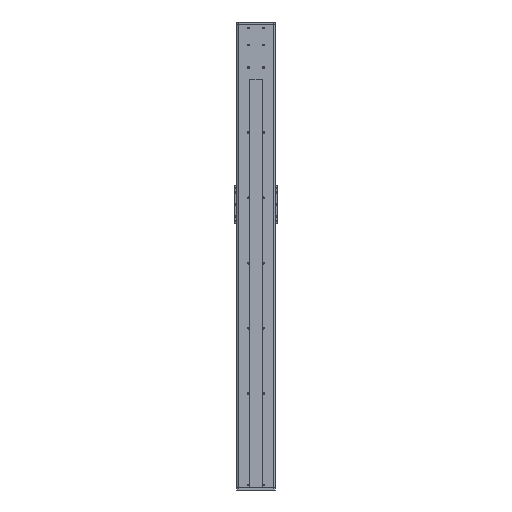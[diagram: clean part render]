
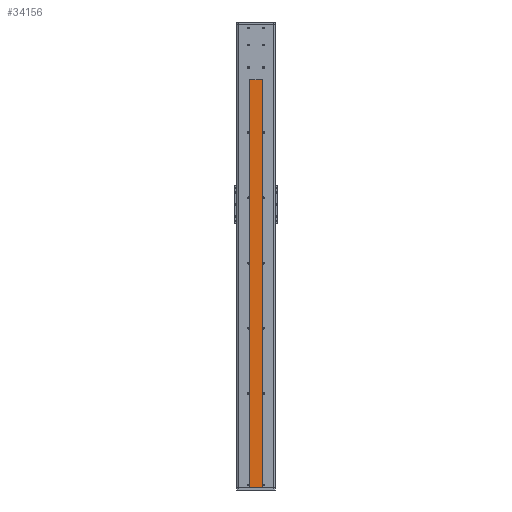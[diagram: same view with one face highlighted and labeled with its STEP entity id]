
A CAD part, front view. The second image highlights one B-rep face of the part: STEP entity #34156.
In plain terms, the highlighted planar face has unit normal (0, -1, 0).
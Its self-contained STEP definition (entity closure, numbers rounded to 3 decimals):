
#1169 = CARTESIAN_POINT ( 'NONE',  ( 1.27, -85.314, 2135. ) ) ;
#1788 = CARTESIAN_POINT ( 'NONE',  ( 1.27, -85.314, 255. ) ) ;
#2899 = EDGE_CURVE ( 'NONE', #8117, #41761, #39612, .T. ) ;
#4941 = VECTOR ( 'NONE', #34429, 1000. ) ;
#5623 = VECTOR ( 'NONE', #14568, 1000. ) ;
#6062 = ORIENTED_EDGE ( 'NONE', *, *, #30628, .F. ) ;
#7247 = CARTESIAN_POINT ( 'NONE',  ( 1.27, -85.314, 255. ) ) ;
#8117 = VERTEX_POINT ( 'NONE', #30061 ) ;
#8274 = EDGE_CURVE ( 'NONE', #37290, #8117, #14427, .T. ) ;
#8996 = PLANE ( 'NONE',  #12632 ) ;
#11026 = VECTOR ( 'NONE', #21676, 1000. ) ;
#12632 = AXIS2_PLACEMENT_3D ( 'NONE', #19665, #37582, #16220 ) ;
#14366 = CARTESIAN_POINT ( 'NONE',  ( 58.27, -85.314, 255. ) ) ;
#14427 = LINE ( 'NONE', #16652, #4941 ) ;
#14568 = DIRECTION ( 'NONE',  ( 0., 0., 1. ) ) ;
#15134 = LINE ( 'NONE', #25209, #5623 ) ;
#16220 = DIRECTION ( 'NONE',  ( 0., 0., 1. ) ) ;
#16652 = CARTESIAN_POINT ( 'NONE',  ( 58.27, -85.314, 255. ) ) ;
#19665 = CARTESIAN_POINT ( 'NONE',  ( 1.27, -85.314, 255. ) ) ;
#19756 = CARTESIAN_POINT ( 'NONE',  ( 1.27, -85.314, 2135. ) ) ;
#21146 = ORIENTED_EDGE ( 'NONE', *, *, #2899, .T. ) ;
#21676 = DIRECTION ( 'NONE',  ( -1., 0., 0. ) ) ;
#25209 = CARTESIAN_POINT ( 'NONE',  ( 1.27, -85.314, 255. ) ) ;
#26951 = VERTEX_POINT ( 'NONE', #1788 ) ;
#28041 = ORIENTED_EDGE ( 'NONE', *, *, #45873, .F. ) ;
#29657 = EDGE_LOOP ( 'NONE', ( #21146, #28041, #6062, #44537 ) ) ;
#29667 = DIRECTION ( 'NONE',  ( -1., 0., 0. ) ) ;
#30003 = LINE ( 'NONE', #7247, #11026 ) ;
#30061 = CARTESIAN_POINT ( 'NONE',  ( 58.27, -85.314, 2135. ) ) ;
#30628 = EDGE_CURVE ( 'NONE', #37290, #26951, #30003, .T. ) ;
#31256 = FACE_OUTER_BOUND ( 'NONE', #29657, .T. ) ;
#34156 = ADVANCED_FACE ( 'NONE', ( #31256 ), #8996, .F. ) ;
#34429 = DIRECTION ( 'NONE',  ( 0., 0., 1. ) ) ;
#36249 = VECTOR ( 'NONE', #29667, 1000. ) ;
#37290 = VERTEX_POINT ( 'NONE', #14366 ) ;
#37582 = DIRECTION ( 'NONE',  ( 0., 1., 0. ) ) ;
#39612 = LINE ( 'NONE', #1169, #36249 ) ;
#41761 = VERTEX_POINT ( 'NONE', #19756 ) ;
#44537 = ORIENTED_EDGE ( 'NONE', *, *, #8274, .T. ) ;
#45873 = EDGE_CURVE ( 'NONE', #26951, #41761, #15134, .T. ) ;
